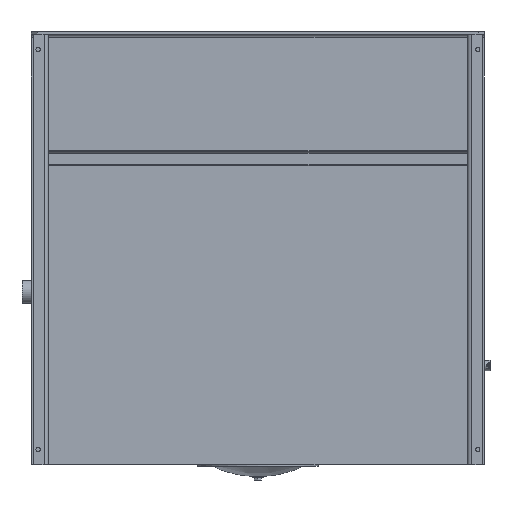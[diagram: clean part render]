
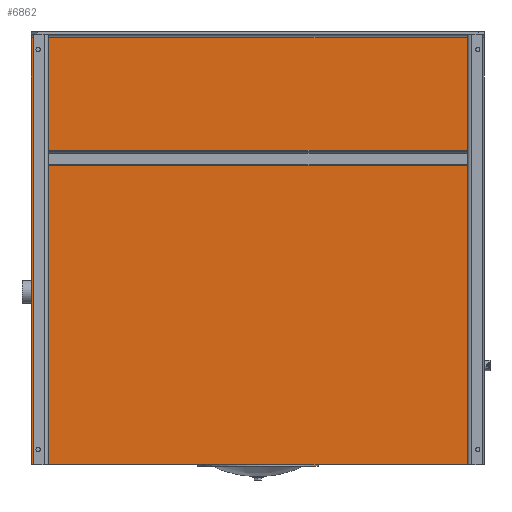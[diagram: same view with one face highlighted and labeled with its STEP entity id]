
A CAD part, front view. The second image highlights one B-rep face of the part: STEP entity #6862.
In plain terms, the highlighted planar face has unit normal (0, -1, 0).
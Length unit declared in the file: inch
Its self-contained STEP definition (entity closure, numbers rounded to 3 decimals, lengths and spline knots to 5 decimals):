
#153 = DIRECTION ( 'NONE',  ( 0., 0., -1. ) ) ;
#1812 = PLANE ( 'NONE',  #12267 ) ;
#1904 = VECTOR ( 'NONE', #153, 39.37008 ) ;
#2236 = VERTEX_POINT ( 'NONE', #4879 ) ;
#2307 = VERTEX_POINT ( 'NONE', #3886 ) ;
#2420 = LINE ( 'NONE', #6926, #1904 ) ;
#2431 = CARTESIAN_POINT ( 'NONE',  ( -31.72103, -0.99722, 30.51028 ) ) ;
#3532 = DIRECTION ( 'NONE',  ( 0., 0., -1. ) ) ;
#3886 = CARTESIAN_POINT ( 'NONE',  ( -31.72103, -0.99722, -26.86472 ) ) ;
#4673 = ORIENTED_EDGE ( 'NONE', *, *, #11048, .F. ) ;
#4879 = CARTESIAN_POINT ( 'NONE',  ( -31.72103, -0.99722, 29.66648 ) ) ;
#5360 = EDGE_CURVE ( 'NONE', #2307, #2236, #21495, .T. ) ;
#6861 = ORIENTED_EDGE ( 'NONE', *, *, #10601, .F. ) ;
#6862 = ADVANCED_FACE ( 'NONE', ( #7545 ), #1812, .T. ) ;
#6926 = CARTESIAN_POINT ( 'NONE',  ( 28.27897, -0.99722, 30.51028 ) ) ;
#7190 = LINE ( 'NONE', #19678, #19535 ) ;
#7545 = FACE_OUTER_BOUND ( 'NONE', #9717, .T. ) ;
#7584 = VECTOR ( 'NONE', #17940, 39.37008 ) ;
#9717 = EDGE_LOOP ( 'NONE', ( #6861, #17339, #17868, #4673 ) ) ;
#9905 = CARTESIAN_POINT ( 'NONE',  ( -31.72103, -0.99722, -26.86472 ) ) ;
#10155 = LINE ( 'NONE', #9905, #14031 ) ;
#10601 = EDGE_CURVE ( 'NONE', #10995, #13916, #2420, .T. ) ;
#10939 = EDGE_CURVE ( 'NONE', #2236, #10995, #7190, .T. ) ;
#10995 = VERTEX_POINT ( 'NONE', #16402 ) ;
#11048 = EDGE_CURVE ( 'NONE', #13916, #2307, #10155, .T. ) ;
#11951 = CARTESIAN_POINT ( 'NONE',  ( -31.72103, -0.99722, -26.86472 ) ) ;
#12267 = AXIS2_PLACEMENT_3D ( 'NONE', #11951, #13627, #3532 ) ;
#13627 = DIRECTION ( 'NONE',  ( 0., -1., 0. ) ) ;
#13916 = VERTEX_POINT ( 'NONE', #20324 ) ;
#14031 = VECTOR ( 'NONE', #19911, 39.37008 ) ;
#14680 = DIRECTION ( 'NONE',  ( 1., 0., 0. ) ) ;
#16402 = CARTESIAN_POINT ( 'NONE',  ( 28.27897, -0.99722, 29.66648 ) ) ;
#17339 = ORIENTED_EDGE ( 'NONE', *, *, #10939, .F. ) ;
#17868 = ORIENTED_EDGE ( 'NONE', *, *, #5360, .F. ) ;
#17940 = DIRECTION ( 'NONE',  ( 0., 0., 1. ) ) ;
#19535 = VECTOR ( 'NONE', #14680, 39.37008 ) ;
#19678 = CARTESIAN_POINT ( 'NONE',  ( -31.72103, -0.99722, 29.66648 ) ) ;
#19911 = DIRECTION ( 'NONE',  ( -1., 0., 0. ) ) ;
#20324 = CARTESIAN_POINT ( 'NONE',  ( 28.27897, -0.99722, -26.86472 ) ) ;
#21495 = LINE ( 'NONE', #2431, #7584 ) ;
